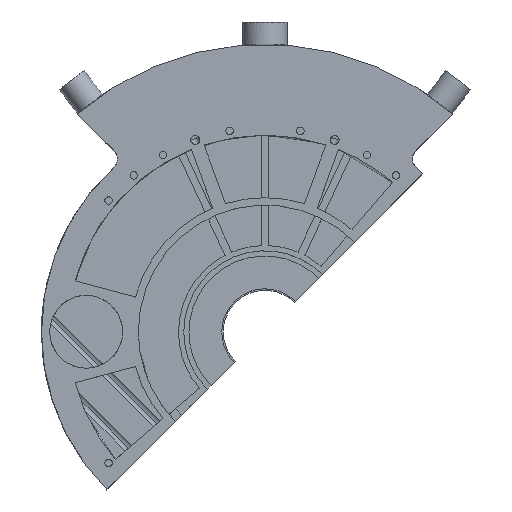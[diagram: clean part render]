
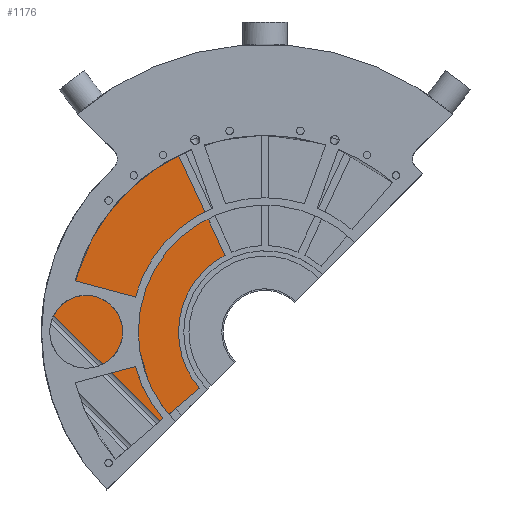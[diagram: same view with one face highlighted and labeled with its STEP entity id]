
A CAD part, top view. The second image highlights one B-rep face of the part: STEP entity #1176.
In plain terms, the highlighted planar face has unit normal (0, 0, 1).
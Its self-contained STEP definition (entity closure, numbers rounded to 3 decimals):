
#1176=ADVANCED_FACE('',(#2493),#2494,.T.);
#2493=FACE_OUTER_BOUND('',#3905,.T.);
#2494=PLANE('',#3906);
#3905=EDGE_LOOP('',(#7733,#7734,#7735,#7736,#7737,#7738,#7739));
#3906=AXIS2_PLACEMENT_3D('',#7740,#7741,#7742);
#7733=ORIENTED_EDGE('',*,*,#9730,.T.);
#7734=ORIENTED_EDGE('',*,*,#9355,.F.);
#7735=ORIENTED_EDGE('',*,*,#9336,.F.);
#7736=ORIENTED_EDGE('',*,*,#8630,.F.);
#7737=ORIENTED_EDGE('',*,*,#10160,.T.);
#7738=ORIENTED_EDGE('',*,*,#10064,.T.);
#7739=ORIENTED_EDGE('',*,*,#9198,.T.);
#7740=CARTESIAN_POINT('',(-80.517,16.495,3.0));
#7741=DIRECTION('',(0.0,0.0,1.0));
#7742=DIRECTION('',(1.0,0.0,0.0));
#8630=EDGE_CURVE('',#10455,#10450,#10457,.T.);
#9198=EDGE_CURVE('',#11433,#11431,#11434,.T.);
#9336=EDGE_CURVE('',#10450,#11658,#11659,.T.);
#9355=EDGE_CURVE('',#11658,#11685,#11686,.T.);
#9730=EDGE_CURVE('',#11431,#11685,#12246,.T.);
#10064=EDGE_CURVE('',#12668,#11433,#12669,.T.);
#10160=EDGE_CURVE('',#10455,#12668,#12776,.T.);
#10450=VERTEX_POINT('',#13597);
#10455=VERTEX_POINT('',#13603);
#10457=CIRCLE('',#13606,58.);
#11431=VERTEX_POINT('',#16565);
#11433=VERTEX_POINT('',#16621);
#11434=CIRCLE('',#16622,24.5);
#11658=VERTEX_POINT('',#17272);
#11659=CIRCLE('',#17273,58.);
#11685=VERTEX_POINT('',#17306);
#11686=LINE('',#17307,#17308);
#12246=LINE('',#18611,#18612);
#12668=VERTEX_POINT('',#19877);
#12669=CIRCLE('',#19878,132.0);
#12776=LINE('',#20087,#20088);
#13597=CARTESIAN_POINT('',(-58.,0.,3.));
#13603=CARTESIAN_POINT('',(-26.755,51.46,3.0));
#13606=AXIS2_PLACEMENT_3D('',#20610,#20611,#20612);
#16565=CARTESIAN_POINT('',(-141.708,11.358,3.));
#16621=CARTESIAN_POINT('',(-130.099,22.322,3.));
#16622=AXIS2_PLACEMENT_3D('',#21448,#21449,#21450);
#17272=CARTESIAN_POINT('',(-44.104,-37.668,3.));
#17273=AXIS2_PLACEMENT_3D('',#21642,#21643,#21644);
#17306=CARTESIAN_POINT('',(-70.305,-60.046,3.));
#17307=CARTESIAN_POINT('',(-44.104,-37.668,3.));
#17308=VECTOR('',#21673,1.0);
#18611=CARTESIAN_POINT('',(-119.222,-11.128,3.0));
#18612=VECTOR('',#22249,1.0);
#19877=CARTESIAN_POINT('',(-58.041,118.555,3.));
#19878=AXIS2_PLACEMENT_3D('',#22692,#22693,#22694);
#20087=CARTESIAN_POINT('',(-26.755,51.46,3.0));
#20088=VECTOR('',#22787,1.0);
#20610=CARTESIAN_POINT('',(0.,0.,3.));
#20611=DIRECTION('',(0.0,0.0,1.0));
#20612=DIRECTION('',(1.0,0.,0.0));
#21448=CARTESIAN_POINT('',(-120.,0.,3.));
#21449=DIRECTION('',(0.0,0.0,1.0));
#21450=DIRECTION('',(1.0,0.0,0.0));
#21642=CARTESIAN_POINT('',(0.,0.,3.));
#21643=DIRECTION('',(0.0,0.0,1.0));
#21644=DIRECTION('',(1.0,0.,0.0));
#21673=DIRECTION('',(-0.76,-0.649,0.));
#22249=DIRECTION('',(0.707,-0.707,0.));
#22692=CARTESIAN_POINT('',(0.,0.,3.));
#22693=DIRECTION('',(0.0,-0.0,1.0));
#22694=DIRECTION('',(1.0,0.,0.0));
#22787=DIRECTION('',(-0.423,0.906,0.0));
